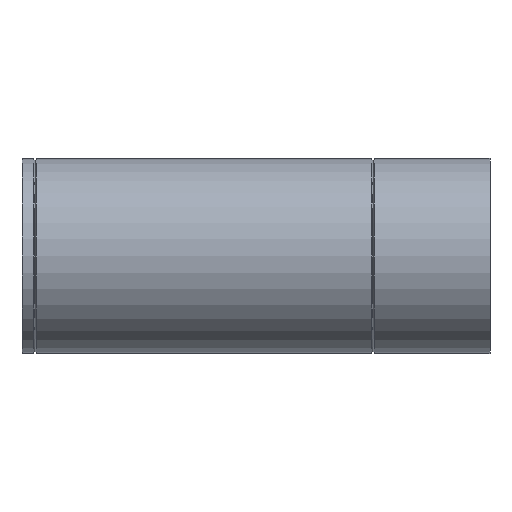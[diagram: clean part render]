
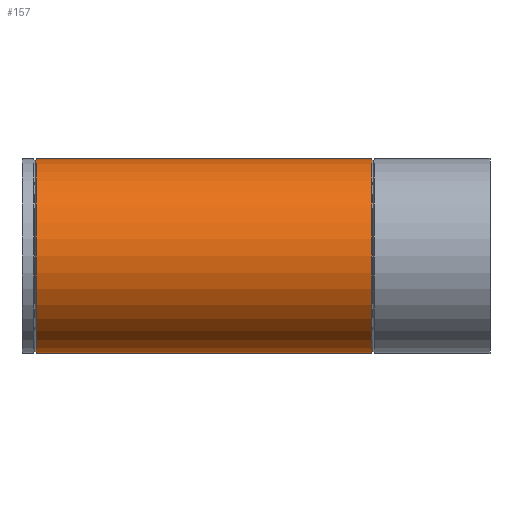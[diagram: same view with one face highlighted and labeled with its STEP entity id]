
A CAD part, left-side view. The second image highlights one B-rep face of the part: STEP entity #157.
In plain terms, the highlighted cylindrical face has radius 37.5 mm (diameter 75 mm), a full revolution.
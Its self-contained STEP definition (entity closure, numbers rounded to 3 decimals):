
#16=B_SPLINE_CURVE_WITH_KNOTS($,3,(#267,#268,#269,#270,#271,#272,#273,#274,
#275,#276,#277,#278,#279,#280,#281,#282,#283,#284,#285,#286,#287,#288,#289,
#290,#291,#292,#293,#294,#295,#296,#297,#298,#299,#300,#301,#302,#303,#304,
#305,#306,#307,#308,#309,#310,#311,#312,#313,#314,#315,#316,#317,#318,#319,
#320,#321,#322,#323,#324,#325,#326,#327,#328,#329,#330,#331,#332),
 .UNSPECIFIED.,.T.,.F.,(4,2,2,2,2,2,2,2,2,2,2,2,2,2,2,2,2,2,2,2,2,2,2,2,
2,2,2,2,2,2,2,2,4),(0.,0.567,1.134,1.701,
2.268,2.822,3.375,3.929,4.483,
5.035,5.587,6.139,6.691,7.26,
7.829,8.398,8.966,9.525,10.084,
10.642,11.201,11.753,12.304,12.856,
13.408,13.96,14.511,15.063,15.615,
16.174,16.732,17.291,17.849),
 .UNSPECIFIED.);
#19=CYLINDRICAL_SURFACE($,#180,37.5);
#29=FACE_BOUND($,#63,.T.);
#30=FACE_BOUND($,#64,.T.);
#48=FACE_OUTER_BOUND($,#62,.T.);
#62=EDGE_LOOP($,(#130));
#63=EDGE_LOOP($,(#131));
#64=EDGE_LOOP($,(#132));
#81=CIRCLE($,#170,37.5);
#86=CIRCLE($,#179,37.5);
#93=VERTEX_POINT($,#249);
#98=VERTEX_POINT($,#263);
#99=VERTEX_POINT($,#266);
#107=EDGE_CURVE($,#93,#93,#81,.T.);
#112=EDGE_CURVE($,#98,#98,#86,.T.);
#113=EDGE_CURVE($,#99,#99,#16,.T.);
#130=ORIENTED_EDGE($,*,*,#107,.T.);
#131=ORIENTED_EDGE($,*,*,#113,.T.);
#132=ORIENTED_EDGE($,*,*,#112,.T.);
#157=ADVANCED_FACE($,(#48,#29,#30),#19,.T.);
#170=AXIS2_PLACEMENT_3D($,#250,#199,#200);
#179=AXIS2_PLACEMENT_3D($,#264,#217,#218);
#180=AXIS2_PLACEMENT_3D($,#265,#219,#220);
#199=DIRECTION('center_axis',(0.,-1.,0.));
#200=DIRECTION('ref_axis',(1.,0.,0.));
#217=DIRECTION('center_axis',(0.,1.,0.));
#218=DIRECTION('ref_axis',(1.,0.,0.));
#219=DIRECTION('center_axis',(0.,1.,0.));
#220=DIRECTION('ref_axis',(1.,0.,0.));
#249=CARTESIAN_POINT('',(37.5,174.567,0.));
#250=CARTESIAN_POINT('Origin',(0.,174.567,0.));
#263=CARTESIAN_POINT('',(37.5,45.433,0.));
#264=CARTESIAN_POINT('Origin',(0.,45.433,0.));
#265=CARTESIAN_POINT('Origin',(0.,0.,0.));
#266=CARTESIAN_POINT('',(24.945,105.653,28.));
#267=CARTESIAN_POINT('Ctrl Pts',(24.945,105.653,28.));
#268=CARTESIAN_POINT('Ctrl Pts',(24.945,107.543,28.));
#269=CARTESIAN_POINT('Ctrl Pts',(25.166,109.441,27.807));
#270=CARTESIAN_POINT('Ctrl Pts',(25.974,113.141,27.054));
#271=CARTESIAN_POINT('Ctrl Pts',(26.558,114.945,26.493));
#272=CARTESIAN_POINT('Ctrl Pts',(27.921,118.374,25.053));
#273=CARTESIAN_POINT('Ctrl Pts',(28.699,120.003,24.172));
#274=CARTESIAN_POINT('Ctrl Pts',(30.285,123.018,22.152));
#275=CARTESIAN_POINT('Ctrl Pts',(31.092,124.405,21.014));
#276=CARTESIAN_POINT('Ctrl Pts',(32.585,126.846,18.612));
#277=CARTESIAN_POINT('Ctrl Pts',(33.33,127.998,17.263));
#278=CARTESIAN_POINT('Ctrl Pts',(34.708,130.062,14.292));
#279=CARTESIAN_POINT('Ctrl Pts',(35.341,130.973,12.669));
#280=CARTESIAN_POINT('Ctrl Pts',(36.389,132.46,9.238));
#281=CARTESIAN_POINT('Ctrl Pts',(36.805,133.036,7.425));
#282=CARTESIAN_POINT('Ctrl Pts',(37.361,133.802,3.729));
#283=CARTESIAN_POINT('Ctrl Pts',(37.5,133.992,1.846));
#284=CARTESIAN_POINT('Ctrl Pts',(37.5,133.992,-1.84));
#285=CARTESIAN_POINT('Ctrl Pts',(37.362,133.804,-3.718));
#286=CARTESIAN_POINT('Ctrl Pts',(36.809,133.042,-7.404));
#287=CARTESIAN_POINT('Ctrl Pts',(36.395,132.469,-9.212));
#288=CARTESIAN_POINT('Ctrl Pts',(35.352,130.99,-12.635));
#289=CARTESIAN_POINT('Ctrl Pts',(34.723,130.084,-14.255));
#290=CARTESIAN_POINT('Ctrl Pts',(33.352,128.031,-17.221));
#291=CARTESIAN_POINT('Ctrl Pts',(32.61,126.885,-18.569));
#292=CARTESIAN_POINT('Ctrl Pts',(31.118,124.449,-20.976));
#293=CARTESIAN_POINT('Ctrl Pts',(30.308,123.06,-22.121));
#294=CARTESIAN_POINT('Ctrl Pts',(28.717,120.039,-24.151));
#295=CARTESIAN_POINT('Ctrl Pts',(27.936,118.407,-25.037));
#296=CARTESIAN_POINT('Ctrl Pts',(26.567,114.97,-26.485));
#297=CARTESIAN_POINT('Ctrl Pts',(25.98,113.162,-27.048));
#298=CARTESIAN_POINT('Ctrl Pts',(25.167,109.452,-27.806));
#299=CARTESIAN_POINT('Ctrl Pts',(24.945,107.549,-28.));
#300=CARTESIAN_POINT('Ctrl Pts',(24.945,103.791,-28.));
#301=CARTESIAN_POINT('Ctrl Pts',(25.16,101.92,-27.812));
#302=CARTESIAN_POINT('Ctrl Pts',(25.958,98.277,-27.069));
#303=CARTESIAN_POINT('Ctrl Pts',(26.538,96.504,-26.514));
#304=CARTESIAN_POINT('Ctrl Pts',(27.895,93.143,-25.081));
#305=CARTESIAN_POINT('Ctrl Pts',(28.673,91.552,-24.202));
#306=CARTESIAN_POINT('Ctrl Pts',(30.259,88.613,-22.188));
#307=CARTESIAN_POINT('Ctrl Pts',(31.066,87.266,-21.052));
#308=CARTESIAN_POINT('Ctrl Pts',(32.567,84.888,-18.646));
#309=CARTESIAN_POINT('Ctrl Pts',(33.318,83.765,-17.287));
#310=CARTESIAN_POINT('Ctrl Pts',(34.706,81.759,-14.3));
#311=CARTESIAN_POINT('Ctrl Pts',(35.341,80.877,-12.67));
#312=CARTESIAN_POINT('Ctrl Pts',(36.391,79.442,-9.229));
#313=CARTESIAN_POINT('Ctrl Pts',(36.807,78.888,-7.413));
#314=CARTESIAN_POINT('Ctrl Pts',(37.362,78.153,-3.719));
#315=CARTESIAN_POINT('Ctrl Pts',(37.5,77.972,-1.839));
#316=CARTESIAN_POINT('Ctrl Pts',(37.5,77.972,1.839));
#317=CARTESIAN_POINT('Ctrl Pts',(37.362,78.153,3.719));
#318=CARTESIAN_POINT('Ctrl Pts',(36.807,78.888,7.413));
#319=CARTESIAN_POINT('Ctrl Pts',(36.391,79.442,9.229));
#320=CARTESIAN_POINT('Ctrl Pts',(35.341,80.877,12.67));
#321=CARTESIAN_POINT('Ctrl Pts',(34.706,81.759,14.3));
#322=CARTESIAN_POINT('Ctrl Pts',(33.318,83.765,17.287));
#323=CARTESIAN_POINT('Ctrl Pts',(32.567,84.888,18.646));
#324=CARTESIAN_POINT('Ctrl Pts',(31.066,87.266,21.052));
#325=CARTESIAN_POINT('Ctrl Pts',(30.259,88.613,22.188));
#326=CARTESIAN_POINT('Ctrl Pts',(28.673,91.552,24.202));
#327=CARTESIAN_POINT('Ctrl Pts',(27.895,93.143,25.081));
#328=CARTESIAN_POINT('Ctrl Pts',(26.538,96.504,26.514));
#329=CARTESIAN_POINT('Ctrl Pts',(25.958,98.277,27.069));
#330=CARTESIAN_POINT('Ctrl Pts',(25.16,101.92,27.812));
#331=CARTESIAN_POINT('Ctrl Pts',(24.945,103.791,28.));
#332=CARTESIAN_POINT('Ctrl Pts',(24.945,105.653,28.));
